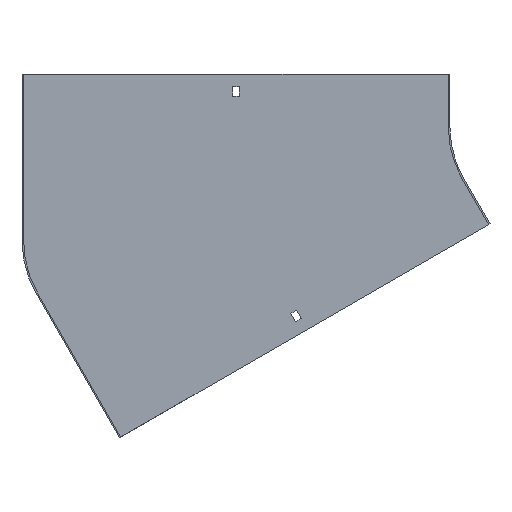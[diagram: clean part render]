
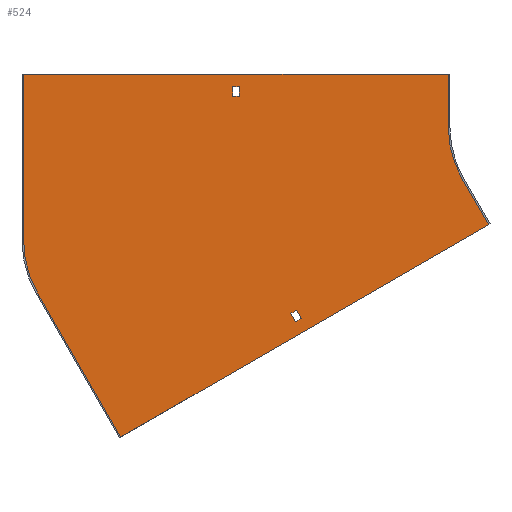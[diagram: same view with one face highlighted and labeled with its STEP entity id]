
A CAD part, front view. The second image highlights one B-rep face of the part: STEP entity #524.
In plain terms, the highlighted planar face has unit normal (0, -1, 0).
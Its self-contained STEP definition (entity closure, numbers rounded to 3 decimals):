
#3 = DIRECTION ( 'NONE',  ( 0., -1., 0. ) ) ;
#7 = CARTESIAN_POINT ( 'NONE',  ( -411.477, -1.5, -295.301 ) ) ;
#15 = ORIENTED_EDGE ( 'NONE', *, *, #234, .T. ) ;
#26 = VECTOR ( 'NONE', #643, 1000. ) ;
#48 = CARTESIAN_POINT ( 'NONE',  ( -100., -1.5, 0. ) ) ;
#49 = EDGE_CURVE ( 'NONE', #282, #482, #70, .T. ) ;
#50 = CIRCLE ( 'NONE', #684, 100. ) ;
#51 = EDGE_CURVE ( 'NONE', #493, #678, #59, .T. ) ;
#53 = VECTOR ( 'NONE', #731, 1000. ) ;
#57 = FACE_BOUND ( 'NONE', #606, .T. ) ;
#59 = LINE ( 'NONE', #532, #776 ) ;
#62 = CARTESIAN_POINT ( 'NONE',  ( 19., -1.5, -32.909 ) ) ;
#66 = ORIENTED_EDGE ( 'NONE', *, *, #94, .F. ) ;
#68 = VECTOR ( 'NONE', #72, 1000. ) ;
#70 = LINE ( 'NONE', #857, #291 ) ;
#72 = DIRECTION ( 'NONE',  ( 0.866, 0., 0.5 ) ) ;
#75 = CARTESIAN_POINT ( 'NONE',  ( -504., -1.5, -108.251 ) ) ;
#79 = CARTESIAN_POINT ( 'NONE',  ( -298.75, -1.5, 38. ) ) ;
#93 = DIRECTION ( 'NONE',  ( -1., 0., 0. ) ) ;
#94 = EDGE_CURVE ( 'NONE', #657, #504, #50, .T. ) ;
#98 = VECTOR ( 'NONE', #376, 1000. ) ;
#100 = DIRECTION ( 'NONE',  ( 0., 0., 1. ) ) ;
#117 = FACE_OUTER_BOUND ( 'NONE', #220, .T. ) ;
#127 = DIRECTION ( 'NONE',  ( 0., 0., -1. ) ) ;
#136 = LINE ( 'NONE', #658, #449 ) ;
#166 = VECTOR ( 'NONE', #642, 1000. ) ;
#179 = ORIENTED_EDGE ( 'NONE', *, *, #514, .F. ) ;
#193 = AXIS2_PLACEMENT_3D ( 'NONE', #458, #611, #735 ) ;
#195 = LINE ( 'NONE', #396, #581 ) ;
#197 = VERTEX_POINT ( 'NONE', #285 ) ;
#198 = LINE ( 'NONE', #475, #53 ) ;
#207 = EDGE_CURVE ( 'NONE', #197, #758, #628, .T. ) ;
#208 = CARTESIAN_POINT ( 'NONE',  ( -245.354, -1.5, -185.534 ) ) ;
#220 = EDGE_LOOP ( 'NONE', ( #839, #380, #66, #232, #819, #772, #179, #590 ) ) ;
#227 = VERTEX_POINT ( 'NONE', #208 ) ;
#232 = ORIENTED_EDGE ( 'NONE', *, *, #394, .F. ) ;
#234 = EDGE_CURVE ( 'NONE', #678, #617, #488, .T. ) ;
#250 = VECTOR ( 'NONE', #359, 1000. ) ;
#265 = VECTOR ( 'NONE', #314, 1000. ) ;
#268 = DIRECTION ( 'NONE',  ( 0., 0., -1. ) ) ;
#269 = VERTEX_POINT ( 'NONE', #616 ) ;
#275 = CARTESIAN_POINT ( 'NONE',  ( -305.25, -1.5, 29. ) ) ;
#282 = VERTEX_POINT ( 'NONE', #645 ) ;
#285 = CARTESIAN_POINT ( 'NONE',  ( -61.603, -1.5, -93.301 ) ) ;
#287 = LINE ( 'NONE', #483, #794 ) ;
#291 = VECTOR ( 'NONE', #724, 1000. ) ;
#314 = DIRECTION ( 'NONE',  ( 0.5, 0., -0.866 ) ) ;
#322 = ORIENTED_EDGE ( 'NONE', *, *, #49, .F. ) ;
#326 = VERTEX_POINT ( 'NONE', #441 ) ;
#336 = AXIS2_PLACEMENT_3D ( 'NONE', #541, #3, #127 ) ;
#338 = CARTESIAN_POINT ( 'NONE',  ( -86.603, -1.5, -50. ) ) ;
#340 = EDGE_CURVE ( 'NONE', #496, #227, #583, .T. ) ;
#341 = ORIENTED_EDGE ( 'NONE', *, *, #340, .F. ) ;
#348 = EDGE_CURVE ( 'NONE', #760, #493, #365, .T. ) ;
#359 = DIRECTION ( 'NONE',  ( -0.866, 0., -0.5 ) ) ;
#365 = LINE ( 'NONE', #446, #26 ) ;
#367 = EDGE_CURVE ( 'NONE', #482, #496, #826, .T. ) ;
#376 = DIRECTION ( 'NONE',  ( -0.866, 0., -0.5 ) ) ;
#380 = ORIENTED_EDGE ( 'NONE', *, *, #766, .F. ) ;
#384 = ORIENTED_EDGE ( 'NONE', *, *, #348, .T. ) ;
#389 = PLANE ( 'NONE',  #336 ) ;
#393 = VECTOR ( 'NONE', #100, 1000. ) ;
#394 = EDGE_CURVE ( 'NONE', #758, #657, #779, .T. ) ;
#396 = CARTESIAN_POINT ( 'NONE',  ( -100., -1.5, 50. ) ) ;
#400 = ORIENTED_EDGE ( 'NONE', *, *, #705, .T. ) ;
#413 = LINE ( 'NONE', #62, #68 ) ;
#429 = ORIENTED_EDGE ( 'NONE', *, *, #367, .F. ) ;
#441 = CARTESIAN_POINT ( 'NONE',  ( -504., -1.5, 50. ) ) ;
#446 = CARTESIAN_POINT ( 'NONE',  ( -305.25, -1.5, 0. ) ) ;
#449 = VECTOR ( 'NONE', #675, 1000. ) ;
#458 = CARTESIAN_POINT ( 'NONE',  ( 0., -1.5, 0. ) ) ;
#464 = FACE_BOUND ( 'NONE', #821, .T. ) ;
#467 = DIRECTION ( 'NONE',  ( 1., 0., 0. ) ) ;
#475 = CARTESIAN_POINT ( 'NONE',  ( -86.603, -1.5, -50. ) ) ;
#482 = VERTEX_POINT ( 'NONE', #740 ) ;
#483 = CARTESIAN_POINT ( 'NONE',  ( 0., -1.5, 29. ) ) ;
#488 = LINE ( 'NONE', #680, #538 ) ;
#493 = VERTEX_POINT ( 'NONE', #607 ) ;
#496 = VERTEX_POINT ( 'NONE', #668 ) ;
#503 = DIRECTION ( 'NONE',  ( 0., 0., -1. ) ) ;
#504 = VERTEX_POINT ( 'NONE', #530 ) ;
#509 = EDGE_CURVE ( 'NONE', #269, #823, #195, .T. ) ;
#512 = VERTEX_POINT ( 'NONE', #338 ) ;
#514 = EDGE_CURVE ( 'NONE', #823, #512, #608, .T. ) ;
#523 = ORIENTED_EDGE ( 'NONE', *, *, #51, .T. ) ;
#524 = ADVANCED_FACE ( 'NONE', ( #57, #117, #464 ), #389, .T. ) ;
#526 = EDGE_CURVE ( 'NONE', #326, #269, #136, .T. ) ;
#530 = CARTESIAN_POINT ( 'NONE',  ( -504., -1.5, -108.251 ) ) ;
#532 = CARTESIAN_POINT ( 'NONE',  ( 0., -1.5, 38. ) ) ;
#535 = EDGE_CURVE ( 'NONE', #227, #282, #413, .T. ) ;
#538 = VECTOR ( 'NONE', #503, 1000. ) ;
#541 = CARTESIAN_POINT ( 'NONE',  ( 0., -1.5, 0. ) ) ;
#549 = CARTESIAN_POINT ( 'NONE',  ( -490.603, -1.5, -158.251 ) ) ;
#571 = EDGE_CURVE ( 'NONE', #512, #197, #198, .T. ) ;
#581 = VECTOR ( 'NONE', #671, 1000. ) ;
#583 = LINE ( 'NONE', #770, #265 ) ;
#590 = ORIENTED_EDGE ( 'NONE', *, *, #509, .F. ) ;
#606 = EDGE_LOOP ( 'NONE', ( #322, #803, #341, #429 ) ) ;
#607 = CARTESIAN_POINT ( 'NONE',  ( -305.25, -1.5, 38. ) ) ;
#608 = CIRCLE ( 'NONE', #193, 100. ) ;
#611 = DIRECTION ( 'NONE',  ( 0., -1., 0. ) ) ;
#616 = CARTESIAN_POINT ( 'NONE',  ( -100., -1.5, 50. ) ) ;
#617 = VERTEX_POINT ( 'NONE', #627 ) ;
#621 = CARTESIAN_POINT ( 'NONE',  ( -60.304, -1.5, -92.551 ) ) ;
#627 = CARTESIAN_POINT ( 'NONE',  ( -298.75, -1.5, 29. ) ) ;
#628 = LINE ( 'NONE', #621, #250 ) ;
#642 = DIRECTION ( 'NONE',  ( -0.5, 0., 0.866 ) ) ;
#643 = DIRECTION ( 'NONE',  ( 0., 0., 1. ) ) ;
#645 = CARTESIAN_POINT ( 'NONE',  ( -239.725, -1.5, -182.284 ) ) ;
#657 = VERTEX_POINT ( 'NONE', #549 ) ;
#658 = CARTESIAN_POINT ( 'NONE',  ( -505.5, -1.5, 50. ) ) ;
#661 = CARTESIAN_POINT ( 'NONE',  ( -404., -1.5, -108.251 ) ) ;
#668 = CARTESIAN_POINT ( 'NONE',  ( -249.854, -1.5, -177.74 ) ) ;
#671 = DIRECTION ( 'NONE',  ( 0., 0., -1. ) ) ;
#675 = DIRECTION ( 'NONE',  ( 1., 0., 0. ) ) ;
#678 = VERTEX_POINT ( 'NONE', #79 ) ;
#679 = LINE ( 'NONE', #75, #393 ) ;
#680 = CARTESIAN_POINT ( 'NONE',  ( -298.75, -1.5, 0. ) ) ;
#684 = AXIS2_PLACEMENT_3D ( 'NONE', #661, #729, #268 ) ;
#697 = CARTESIAN_POINT ( 'NONE',  ( -411.477, -1.5, -295.301 ) ) ;
#705 = EDGE_CURVE ( 'NONE', #617, #760, #287, .T. ) ;
#724 = DIRECTION ( 'NONE',  ( -0.5, 0., 0.866 ) ) ;
#729 = DIRECTION ( 'NONE',  ( 0., 1., 0. ) ) ;
#731 = DIRECTION ( 'NONE',  ( 0.5, 0., -0.866 ) ) ;
#735 = DIRECTION ( 'NONE',  ( 0., 0., -1. ) ) ;
#740 = CARTESIAN_POINT ( 'NONE',  ( -244.225, -1.5, -174.49 ) ) ;
#758 = VERTEX_POINT ( 'NONE', #7 ) ;
#760 = VERTEX_POINT ( 'NONE', #275 ) ;
#766 = EDGE_CURVE ( 'NONE', #504, #326, #679, .T. ) ;
#770 = CARTESIAN_POINT ( 'NONE',  ( -264.354, -1.5, -152.625 ) ) ;
#772 = ORIENTED_EDGE ( 'NONE', *, *, #571, .F. ) ;
#776 = VECTOR ( 'NONE', #467, 1000. ) ;
#779 = LINE ( 'NONE', #697, #166 ) ;
#794 = VECTOR ( 'NONE', #93, 1000. ) ;
#803 = ORIENTED_EDGE ( 'NONE', *, *, #535, .F. ) ;
#819 = ORIENTED_EDGE ( 'NONE', *, *, #207, .F. ) ;
#821 = EDGE_LOOP ( 'NONE', ( #523, #15, #400, #384 ) ) ;
#823 = VERTEX_POINT ( 'NONE', #48 ) ;
#826 = LINE ( 'NONE', #841, #98 ) ;
#839 = ORIENTED_EDGE ( 'NONE', *, *, #526, .F. ) ;
#841 = CARTESIAN_POINT ( 'NONE',  ( 14.5, -1.5, -25.115 ) ) ;
#857 = CARTESIAN_POINT ( 'NONE',  ( -258.725, -1.5, -149.375 ) ) ;
